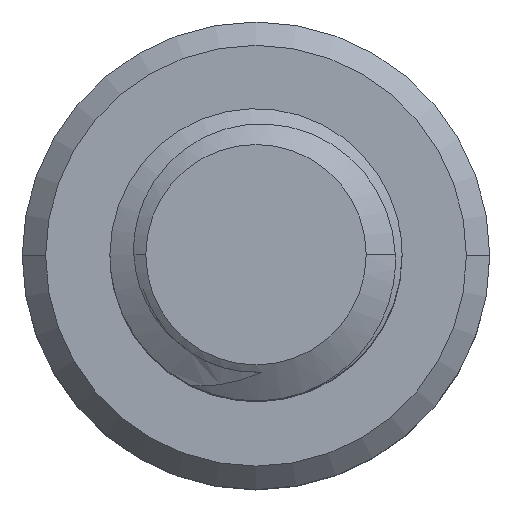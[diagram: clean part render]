
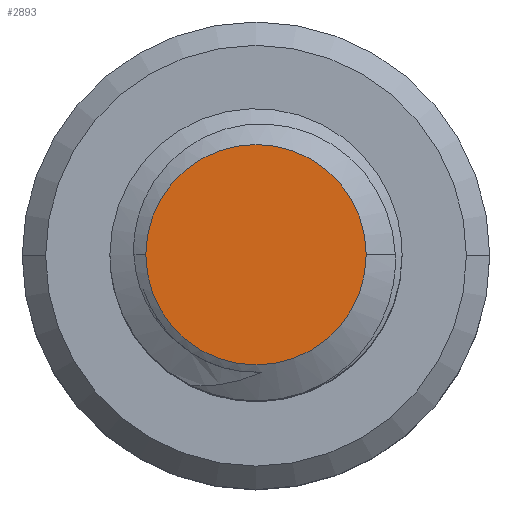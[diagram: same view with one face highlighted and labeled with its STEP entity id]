
A CAD part, top view. The second image highlights one B-rep face of the part: STEP entity #2893.
In plain terms, the highlighted planar face has unit normal (0, 0, 1).
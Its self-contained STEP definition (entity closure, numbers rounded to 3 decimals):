
#203 = CIRCLE ( 'NONE', #3496, 3.772 ) ;
#239 = CARTESIAN_POINT ( 'NONE',  ( 0., 0., 0. ) ) ;
#651 = FACE_OUTER_BOUND ( 'NONE', #3482, .T. ) ;
#669 = CARTESIAN_POINT ( 'NONE',  ( 0., 0., 0. ) ) ;
#685 = PLANE ( 'NONE',  #1085 ) ;
#806 = DIRECTION ( 'NONE',  ( 1., 0., 0. ) ) ;
#824 = DIRECTION ( 'NONE',  ( 0., 0., 1. ) ) ;
#854 = ORIENTED_EDGE ( 'NONE', *, *, #1301, .T. ) ;
#910 = VERTEX_POINT ( 'NONE', #1513 ) ;
#1001 = DIRECTION ( 'NONE',  ( 1., 0., 0. ) ) ;
#1085 = AXIS2_PLACEMENT_3D ( 'NONE', #669, #2921, #1001 ) ;
#1271 = VERTEX_POINT ( 'NONE', #2806 ) ;
#1301 = EDGE_CURVE ( 'NONE', #910, #1271, #203, .T. ) ;
#1513 = CARTESIAN_POINT ( 'NONE',  ( -3.772, 0., 0. ) ) ;
#1667 = DIRECTION ( 'NONE',  ( 0., 0., 1. ) ) ;
#2806 = CARTESIAN_POINT ( 'NONE',  ( 3.772, 0., 0. ) ) ;
#2893 = ADVANCED_FACE ( 'NONE', ( #651 ), #685, .T. ) ;
#2921 = DIRECTION ( 'NONE',  ( 0., 0., 1. ) ) ;
#3005 = CIRCLE ( 'NONE', #3724, 3.772 ) ;
#3482 = EDGE_LOOP ( 'NONE', ( #854, #3886 ) ) ;
#3496 = AXIS2_PLACEMENT_3D ( 'NONE', #239, #824, #806 ) ;
#3518 = CARTESIAN_POINT ( 'NONE',  ( 0., 0., 0. ) ) ;
#3724 = AXIS2_PLACEMENT_3D ( 'NONE', #3518, #1667, #3835 ) ;
#3835 = DIRECTION ( 'NONE',  ( 1., 0., 0. ) ) ;
#3857 = EDGE_CURVE ( 'NONE', #1271, #910, #3005, .T. ) ;
#3886 = ORIENTED_EDGE ( 'NONE', *, *, #3857, .T. ) ;
